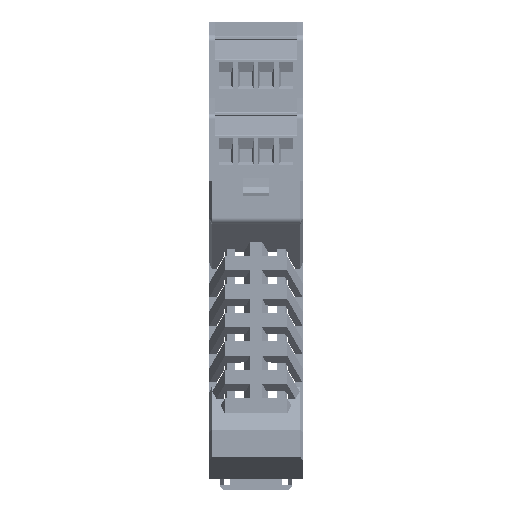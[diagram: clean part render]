
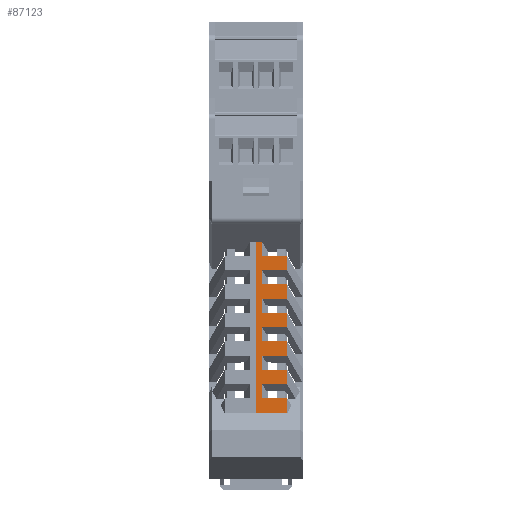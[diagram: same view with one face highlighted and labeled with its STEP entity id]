
A CAD part, front view. The second image highlights one B-rep face of the part: STEP entity #87123.
In plain terms, the highlighted planar face has unit normal (0, -1, 0) as drawn and (1, 0, 0) by its records, which use the part's own axes.
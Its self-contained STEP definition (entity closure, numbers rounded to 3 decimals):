
#87123=ADVANCED_FACE('',(#172337),#172339,.F.);
#172337=FACE_BOUND('',#172338,.T.);
#172338=EDGE_LOOP('',(#240965,#240966,#240967,#240968,#240969,#240970,#240971,#240972,
#240973,#240974,#240975,#240976,#240977,#240978,#240979,#240980,#240981,#240982,
#240983,#240984,#240985,#240986,#240987,#240988,#240989,#240990));
#172339=PLANE('',#172340);
#172340=AXIS2_PLACEMENT_3D('',#172341,#172342,#172343);
#172341=CARTESIAN_POINT('',(42.55,76.5,0.));
#172342=DIRECTION('',(-1.,0.,0.));
#172343=DIRECTION('',(0.,0.,1.));
#240965=ORIENTED_EDGE('',*,*,#279430,.F.);
#240966=ORIENTED_EDGE('',*,*,#279431,.F.);
#240967=ORIENTED_EDGE('',*,*,#279432,.T.);
#240968=ORIENTED_EDGE('',*,*,#279433,.F.);
#240969=ORIENTED_EDGE('',*,*,#279434,.T.);
#240970=ORIENTED_EDGE('',*,*,#279435,.F.);
#240971=ORIENTED_EDGE('',*,*,#279436,.T.);
#240972=ORIENTED_EDGE('',*,*,#279437,.F.);
#240973=ORIENTED_EDGE('',*,*,#279438,.F.);
#240974=ORIENTED_EDGE('',*,*,#279439,.F.);
#240975=ORIENTED_EDGE('',*,*,#279440,.T.);
#240976=ORIENTED_EDGE('',*,*,#279441,.F.);
#240977=ORIENTED_EDGE('',*,*,#279442,.F.);
#240978=ORIENTED_EDGE('',*,*,#279411,.T.);
#240979=ORIENTED_EDGE('',*,*,#279443,.T.);
#240980=ORIENTED_EDGE('',*,*,#279444,.T.);
#240981=ORIENTED_EDGE('',*,*,#279445,.F.);
#240982=ORIENTED_EDGE('',*,*,#279424,.T.);
#240983=ORIENTED_EDGE('',*,*,#279446,.T.);
#240984=ORIENTED_EDGE('',*,*,#279364,.T.);
#240985=ORIENTED_EDGE('',*,*,#279447,.T.);
#240986=ORIENTED_EDGE('',*,*,#279356,.F.);
#240987=ORIENTED_EDGE('',*,*,#279448,.F.);
#240988=ORIENTED_EDGE('',*,*,#279449,.T.);
#240989=ORIENTED_EDGE('',*,*,#279450,.T.);
#240990=ORIENTED_EDGE('',*,*,#279451,.T.);
#279356=EDGE_CURVE('',#329975,#329977,#329978,.T.);
#279364=EDGE_CURVE('',#329992,#329990,#329993,.T.);
#279411=EDGE_CURVE('',#330076,#330074,#330077,.T.);
#279424=EDGE_CURVE('',#330098,#330096,#330099,.T.);
#279430=EDGE_CURVE('',#330107,#330108,#330109,.T.);
#279431=EDGE_CURVE('',#330110,#330107,#330111,.T.);
#279432=EDGE_CURVE('',#330110,#330112,#330113,.T.);
#279433=EDGE_CURVE('',#330114,#330112,#330115,.T.);
#279434=EDGE_CURVE('',#330114,#330116,#330117,.T.);
#279435=EDGE_CURVE('',#330118,#330116,#330119,.T.);
#279436=EDGE_CURVE('',#330118,#330120,#330121,.T.);
#279437=EDGE_CURVE('',#330122,#330120,#330123,.T.);
#279438=EDGE_CURVE('',#330124,#330122,#330125,.T.);
#279439=EDGE_CURVE('',#330126,#330124,#330127,.T.);
#279440=EDGE_CURVE('',#330126,#330128,#330129,.T.);
#279441=EDGE_CURVE('',#330130,#330128,#330131,.T.);
#279442=EDGE_CURVE('',#330076,#330130,#330132,.T.);
#279443=EDGE_CURVE('',#330074,#330133,#330134,.T.);
#279444=EDGE_CURVE('',#330133,#330135,#330136,.T.);
#279445=EDGE_CURVE('',#330098,#330135,#330137,.T.);
#279446=EDGE_CURVE('',#330096,#329992,#330138,.T.);
#279447=EDGE_CURVE('',#329990,#329977,#330139,.T.);
#279448=EDGE_CURVE('',#330140,#329975,#330141,.T.);
#279449=EDGE_CURVE('',#330140,#330142,#330143,.T.);
#279450=EDGE_CURVE('',#330142,#330144,#330145,.T.);
#279451=EDGE_CURVE('',#330144,#330108,#330146,.T.);
#329975=VERTEX_POINT('',#447794);
#329977=VERTEX_POINT('',#447798);
#329978=LINE('',#447799,#447800);
#329990=VERTEX_POINT('',#447825);
#329992=VERTEX_POINT('',#447829);
#329993=LINE('',#447830,#447831);
#330074=VERTEX_POINT('',#448003);
#330076=VERTEX_POINT('',#448007);
#330077=LINE('',#448008,#448009);
#330096=VERTEX_POINT('',#448051);
#330098=VERTEX_POINT('',#448055);
#330099=LINE('',#448056,#448057);
#330107=VERTEX_POINT('',#448076);
#330108=VERTEX_POINT('',#448077);
#330109=LINE('',#448078,#448079);
#330110=VERTEX_POINT('',#448081);
#330111=LINE('',#448082,#448083);
#330112=VERTEX_POINT('',#448085);
#330113=LINE('',#448086,#448087);
#330114=VERTEX_POINT('',#448089);
#330115=LINE('',#448090,#448091);
#330116=VERTEX_POINT('',#448093);
#330117=LINE('',#448094,#448095);
#330118=VERTEX_POINT('',#448097);
#330119=LINE('',#448098,#448099);
#330120=VERTEX_POINT('',#448101);
#330121=LINE('',#448102,#448103);
#330122=VERTEX_POINT('',#448105);
#330123=LINE('',#448106,#448107);
#330124=VERTEX_POINT('',#448109);
#330125=LINE('',#448110,#448111);
#330126=VERTEX_POINT('',#448113);
#330127=LINE('',#448114,#448115);
#330128=VERTEX_POINT('',#448117);
#330129=LINE('',#448118,#448119);
#330130=VERTEX_POINT('',#448121);
#330131=LINE('',#448122,#448123);
#330132=LINE('',#448125,#448126);
#330133=VERTEX_POINT('',#448128);
#330134=LINE('',#448129,#448130);
#330135=VERTEX_POINT('',#448132);
#330136=LINE('',#448133,#448134);
#330137=LINE('',#448136,#448137);
#330138=LINE('',#448139,#448140);
#330139=LINE('',#448142,#448143);
#330140=VERTEX_POINT('',#448145);
#330141=LINE('',#448146,#448147);
#330142=VERTEX_POINT('',#448149);
#330143=LINE('',#448150,#448151);
#330144=VERTEX_POINT('',#448153);
#330145=LINE('',#448154,#448155);
#330146=LINE('',#448157,#448158);
#447794=CARTESIAN_POINT('',(42.55,20.,-7.547));
#447798=CARTESIAN_POINT('',(42.55,20.,0.));
#447799=CARTESIAN_POINT('',(42.55,20.,-7.547));
#447800=VECTOR('',#447801,1.);
#447801=DIRECTION('',(0.,0.,1.));
#447825=CARTESIAN_POINT('',(42.55,61.6,0.));
#447829=CARTESIAN_POINT('',(42.55,61.6,-1.5));
#447830=CARTESIAN_POINT('',(42.55,61.6,-1.5));
#447831=VECTOR('',#447832,1.);
#447832=DIRECTION('',(0.,0.,1.));
#448003=CARTESIAN_POINT('',(42.55,51.3,-1.5));
#448007=CARTESIAN_POINT('',(42.55,51.3,-7.547));
#448008=CARTESIAN_POINT('',(42.55,51.3,-7.547));
#448009=VECTOR('',#448010,1.);
#448010=DIRECTION('',(0.,0.,1.));
#448051=CARTESIAN_POINT('',(42.55,58.2,-1.5));
#448055=CARTESIAN_POINT('',(42.55,58.2,-7.547));
#448056=CARTESIAN_POINT('',(42.55,58.2,-7.547));
#448057=VECTOR('',#448058,1.);
#448058=DIRECTION('',(0.,0.,1.));
#448076=CARTESIAN_POINT('',(42.55,30.6,-7.547));
#448077=CARTESIAN_POINT('',(42.55,27.1,-7.547));
#448078=CARTESIAN_POINT('',(42.55,30.6,-7.547));
#448079=VECTOR('',#448080,1.);
#448080=DIRECTION('',(0.,-1.,0.));
#448081=CARTESIAN_POINT('',(42.55,30.6,-1.5));
#448082=CARTESIAN_POINT('',(42.55,30.6,-1.5));
#448083=VECTOR('',#448084,1.);
#448084=DIRECTION('',(0.,0.,-1.));
#448085=CARTESIAN_POINT('',(42.55,34.,-1.5));
#448086=CARTESIAN_POINT('',(42.55,30.6,-1.5));
#448087=VECTOR('',#448088,1.);
#448088=DIRECTION('',(0.,1.,0.));
#448089=CARTESIAN_POINT('',(42.55,34.,-7.547));
#448090=CARTESIAN_POINT('',(42.55,34.,-7.547));
#448091=VECTOR('',#448092,1.);
#448092=DIRECTION('',(0.,0.,1.));
#448093=CARTESIAN_POINT('',(42.55,37.5,-7.547));
#448094=CARTESIAN_POINT('',(42.55,34.,-7.547));
#448095=VECTOR('',#448096,1.);
#448096=DIRECTION('',(0.,1.,0.));
#448097=CARTESIAN_POINT('',(42.55,37.5,-1.5));
#448098=CARTESIAN_POINT('',(42.55,37.5,-1.5));
#448099=VECTOR('',#448100,1.);
#448100=DIRECTION('',(0.,0.,-1.));
#448101=CARTESIAN_POINT('',(42.55,40.9,-1.5));
#448102=CARTESIAN_POINT('',(42.55,37.5,-1.5));
#448103=VECTOR('',#448104,1.);
#448104=DIRECTION('',(0.,1.,0.));
#448105=CARTESIAN_POINT('',(42.55,40.9,-7.547));
#448106=CARTESIAN_POINT('',(42.55,40.9,-7.547));
#448107=VECTOR('',#448108,1.);
#448108=DIRECTION('',(0.,0.,1.));
#448109=CARTESIAN_POINT('',(42.55,44.4,-7.547));
#448110=CARTESIAN_POINT('',(42.55,44.4,-7.547));
#448111=VECTOR('',#448112,1.);
#448112=DIRECTION('',(0.,-1.,0.));
#448113=CARTESIAN_POINT('',(42.55,44.4,-1.5));
#448114=CARTESIAN_POINT('',(42.55,44.4,-1.5));
#448115=VECTOR('',#448116,1.);
#448116=DIRECTION('',(0.,0.,-1.));
#448117=CARTESIAN_POINT('',(42.55,47.8,-1.5));
#448118=CARTESIAN_POINT('',(42.55,44.4,-1.5));
#448119=VECTOR('',#448120,1.);
#448120=DIRECTION('',(0.,1.,0.));
#448121=CARTESIAN_POINT('',(42.55,47.8,-7.547));
#448122=CARTESIAN_POINT('',(42.55,47.8,-7.547));
#448123=VECTOR('',#448124,1.);
#448124=DIRECTION('',(0.,0.,1.));
#448125=CARTESIAN_POINT('',(42.55,51.3,-7.547));
#448126=VECTOR('',#448127,1.);
#448127=DIRECTION('',(0.,-1.,0.));
#448128=CARTESIAN_POINT('',(42.55,54.7,-1.5));
#448129=CARTESIAN_POINT('',(42.55,51.3,-1.5));
#448130=VECTOR('',#448131,1.);
#448131=DIRECTION('',(0.,1.,0.));
#448132=CARTESIAN_POINT('',(42.55,54.7,-7.547));
#448133=CARTESIAN_POINT('',(42.55,54.7,-1.5));
#448134=VECTOR('',#448135,1.);
#448135=DIRECTION('',(0.,0.,-1.));
#448136=CARTESIAN_POINT('',(42.55,58.2,-7.547));
#448137=VECTOR('',#448138,1.);
#448138=DIRECTION('',(0.,-1.,0.));
#448139=CARTESIAN_POINT('',(42.55,58.2,-1.5));
#448140=VECTOR('',#448141,1.);
#448141=DIRECTION('',(0.,1.,0.));
#448142=CARTESIAN_POINT('',(42.55,61.6,0.));
#448143=VECTOR('',#448144,1.);
#448144=DIRECTION('',(0.,-1.,0.));
#448145=CARTESIAN_POINT('',(42.55,23.7,-7.547));
#448146=CARTESIAN_POINT('',(42.55,23.7,-7.547));
#448147=VECTOR('',#448148,1.);
#448148=DIRECTION('',(0.,-1.,0.));
#448149=CARTESIAN_POINT('',(42.55,23.7,-1.5));
#448150=CARTESIAN_POINT('',(42.55,23.7,-7.547));
#448151=VECTOR('',#448152,1.);
#448152=DIRECTION('',(0.,0.,1.));
#448153=CARTESIAN_POINT('',(42.55,27.1,-1.5));
#448154=CARTESIAN_POINT('',(42.55,23.7,-1.5));
#448155=VECTOR('',#448156,1.);
#448156=DIRECTION('',(0.,1.,0.));
#448157=CARTESIAN_POINT('',(42.55,27.1,-1.5));
#448158=VECTOR('',#448159,1.);
#448159=DIRECTION('',(0.,0.,-1.));
